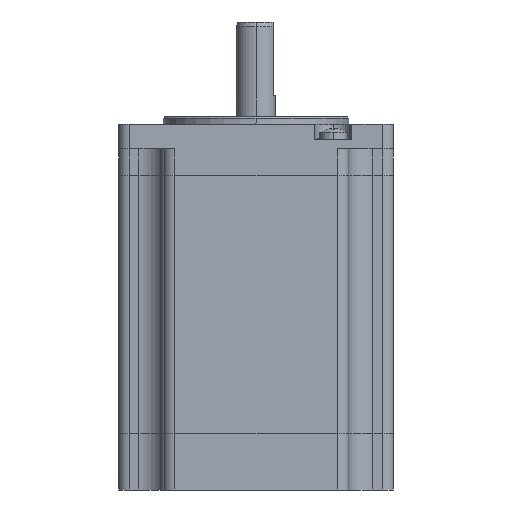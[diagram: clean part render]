
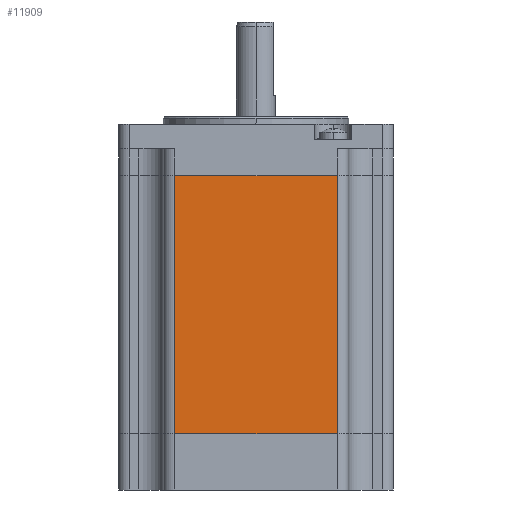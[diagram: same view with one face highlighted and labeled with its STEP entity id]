
A CAD part, left-side view. The second image highlights one B-rep face of the part: STEP entity #11909.
In plain terms, the highlighted planar face has unit normal (-1, 0, 0).
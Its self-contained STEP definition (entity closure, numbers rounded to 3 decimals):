
#8121 = CARTESIAN_POINT ( 'NONE',  ( -28.2, 16.7, 0. ) ) ;
#8122 = DIRECTION ( 'NONE',  ( 0., 0., -1. ) ) ;
#8126 = CARTESIAN_POINT ( 'NONE',  ( -28.2, 0., 53. ) ) ;
#8127 = DIRECTION ( 'NONE',  ( 0., -1., 0. ) ) ;
#8128 = CARTESIAN_POINT ( 'NONE',  ( -28.2, 0., 0. ) ) ;
#8129 = DIRECTION ( 'NONE',  ( 0., -1., 0. ) ) ;
#8130 = CARTESIAN_POINT ( 'NONE',  ( -28.2, -16.7, 122.091 ) ) ;
#8131 = DIRECTION ( 'NONE',  ( 0., 0., -1. ) ) ;
#9978 = AXIS2_PLACEMENT_3D ( 'NONE', #41882, #41883, #41884 ) ;
#11909 = ADVANCED_FACE ( 'NONE', ( #35119 ), #41881, .T. ) ;
#12660 = EDGE_CURVE ( 'NONE', #19039, #19041, #35999, .T. ) ;
#12662 = EDGE_CURVE ( 'NONE', #19039, #18975, #36000, .T. ) ;
#12663 = EDGE_CURVE ( 'NONE', #19041, #19017, #36001, .T. ) ;
#12664 = EDGE_CURVE ( 'NONE', #18975, #19017, #36002, .T. ) ;
#18975 = VERTEX_POINT ( 'NONE', #37558 ) ;
#19017 = VERTEX_POINT ( 'NONE', #37600 ) ;
#19039 = VERTEX_POINT ( 'NONE', #37621 ) ;
#19041 = VERTEX_POINT ( 'NONE', #37623 ) ;
#19950 = ORIENTED_EDGE ( 'NONE', *, *, #12662, .F. ) ;
#19952 = ORIENTED_EDGE ( 'NONE', *, *, #12663, .T. ) ;
#19954 = ORIENTED_EDGE ( 'NONE', *, *, #12660, .T. ) ;
#19959 = ORIENTED_EDGE ( 'NONE', *, *, #12664, .F. ) ;
#23539 = EDGE_LOOP ( 'NONE', ( #19950, #19954, #19952, #19959 ) ) ;
#33526 = VECTOR ( 'NONE', #8122, 1000. ) ;
#33528 = VECTOR ( 'NONE', #8127, 1000. ) ;
#33529 = VECTOR ( 'NONE', #8129, 1000. ) ;
#33531 = VECTOR ( 'NONE', #8131, 1000. ) ;
#35119 = FACE_OUTER_BOUND ( 'NONE', #23539, .T. ) ;
#35999 = LINE ( 'NONE', #8121, #33526 ) ;
#36000 = LINE ( 'NONE', #8126, #33528 ) ;
#36001 = LINE ( 'NONE', #8128, #33529 ) ;
#36002 = LINE ( 'NONE', #8130, #33531 ) ;
#37558 = CARTESIAN_POINT ( 'NONE',  ( -28.2, -16.7, 53. ) ) ;
#37600 = CARTESIAN_POINT ( 'NONE',  ( -28.2, -16.7, 0. ) ) ;
#37621 = CARTESIAN_POINT ( 'NONE',  ( -28.2, 16.7, 53. ) ) ;
#37623 = CARTESIAN_POINT ( 'NONE',  ( -28.2, 16.7, 0. ) ) ;
#41881 = PLANE ( 'NONE',  #9978 ) ;
#41882 = CARTESIAN_POINT ( 'NONE',  ( -28.2, 19., 0. ) ) ;
#41883 = DIRECTION ( 'NONE',  ( -1., 0., 0. ) ) ;
#41884 = DIRECTION ( 'NONE',  ( 0., 0., 1. ) ) ;
